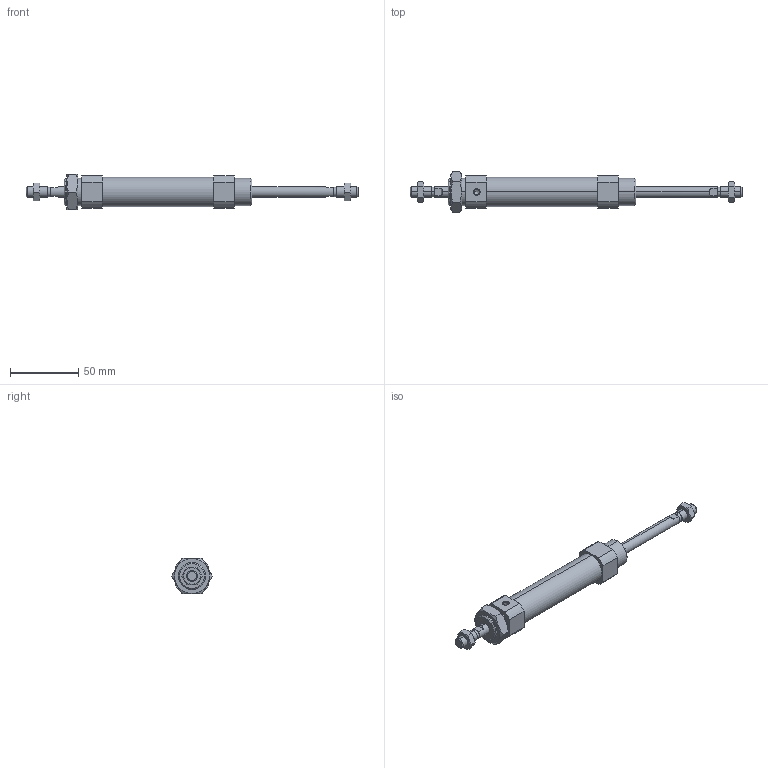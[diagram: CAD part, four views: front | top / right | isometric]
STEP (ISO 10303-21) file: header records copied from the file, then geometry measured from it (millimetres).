
FILE_DESCRIPTION (( 'STEP AP203' ), '1' );
FILE_NAME ('CSM2B20-50-P.STEP', '2020-07-20T15:28:31', ( '' ), ( '' ), 'SwSTEP 2.0', 'SolidWorks 2019', '' );
FILE_SCHEMA (( 'CONFIG_CONTROL_DESIGN' ));
Length unit declared in the file: millimetre
Products named in the file (1): CSM2B20-50-P
Bounding box: 244 x 30.02 x 26 mm (x, y, z)
Volume: 48779.6 mm3; surface area: 27068.8 mm2
Topology: 5 solids, 5 shells, 153 faces, 362 edges, 228 vertices
Faces by surface type: plane 62, cylinder 46, cone 45
Entity records: 5450 total; most frequent: CARTESIAN_POINT 1855, DIRECTION 741, ORIENTED_EDGE 720, EDGE_CURVE 360, AXIS2_PLACEMENT_3D 294, VERTEX_POINT 228, EDGE_LOOP 176, ADVANCED_FACE 153
